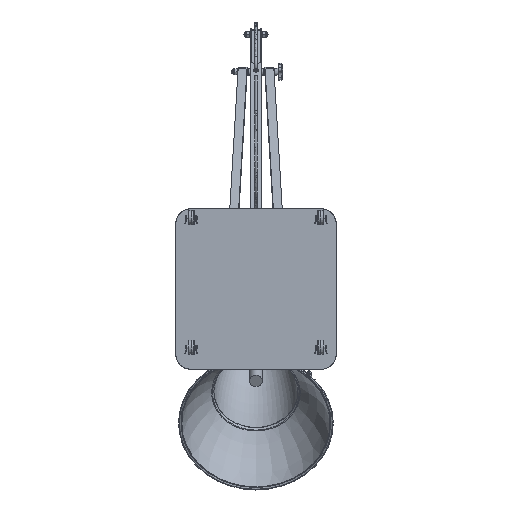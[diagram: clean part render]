
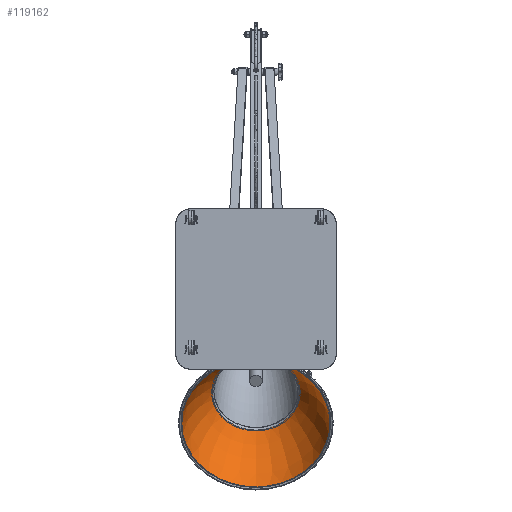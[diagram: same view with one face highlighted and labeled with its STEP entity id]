
A CAD part, front view. The second image highlights one B-rep face of the part: STEP entity #119162.
In plain terms, the highlighted toroidal (fillet/blend) face has major radius 105.017 mm and minor radius 322.006 mm.
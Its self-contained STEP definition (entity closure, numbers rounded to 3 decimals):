
#1159 = CARTESIAN_POINT ( 'NONE',  ( -0.25, 1459.792, -201.323 ) ) ;
#5101 = CARTESIAN_POINT ( 'NONE',  ( -0.25, 1519.947, -412.215 ) ) ;
#9070 = CIRCLE ( 'NONE', #45285, 124.189 ) ;
#15152 = DIRECTION ( 'NONE',  ( 0., -0.508, 0.861 ) ) ;
#19910 = EDGE_LOOP ( 'NONE', ( #30990 ) ) ;
#24545 = DIRECTION ( 'NONE',  ( 0., 0.861, 0.508 ) ) ;
#26151 = EDGE_CURVE ( 'NONE', #86765, #86765, #9070, .T. ) ;
#27472 = CARTESIAN_POINT ( 'NONE',  ( -0.25, 1651.548, -190.277 ) ) ;
#30990 = ORIENTED_EDGE ( 'NONE', *, *, #60020, .T. ) ;
#36392 = AXIS2_PLACEMENT_3D ( 'NONE', #5101, #114721, #15152 ) ;
#40168 = CARTESIAN_POINT ( 'NONE',  ( -0.25, 1567.681, -384.027 ) ) ;
#40234 = CIRCLE ( 'NONE', #115509, 212.181 ) ;
#45285 = AXIS2_PLACEMENT_3D ( 'NONE', #84380, #24545, #94381 ) ;
#50271 = DIRECTION ( 'NONE',  ( 0., -0.508, 0.861 ) ) ;
#60020 = EDGE_CURVE ( 'NONE', #120933, #120933, #40234, .T. ) ;
#67620 = TOROIDAL_SURFACE ( 'NONE', #36392, -105.017, 322.006 ) ;
#84380 = CARTESIAN_POINT ( 'NONE',  ( -0.25, 1714.695, -297.213 ) ) ;
#86765 = VERTEX_POINT ( 'NONE', #27472 ) ;
#91464 = ORIENTED_EDGE ( 'NONE', *, *, #26151, .T. ) ;
#94381 = DIRECTION ( 'NONE',  ( 0., -0.508, 0.861 ) ) ;
#110048 = DIRECTION ( 'NONE',  ( 0., -0.861, -0.508 ) ) ;
#114721 = DIRECTION ( 'NONE',  ( 0., -0.861, -0.508 ) ) ;
#115509 = AXIS2_PLACEMENT_3D ( 'NONE', #40168, #110048, #50271 ) ;
#117697 = EDGE_LOOP ( 'NONE', ( #91464 ) ) ;
#119162 = ADVANCED_FACE ( 'NONE', ( #123908, #120761 ), #67620, .F. ) ;
#120761 = FACE_OUTER_BOUND ( 'NONE', #19910, .T. ) ;
#120933 = VERTEX_POINT ( 'NONE', #1159 ) ;
#123908 = FACE_OUTER_BOUND ( 'NONE', #117697, .T. ) ;
